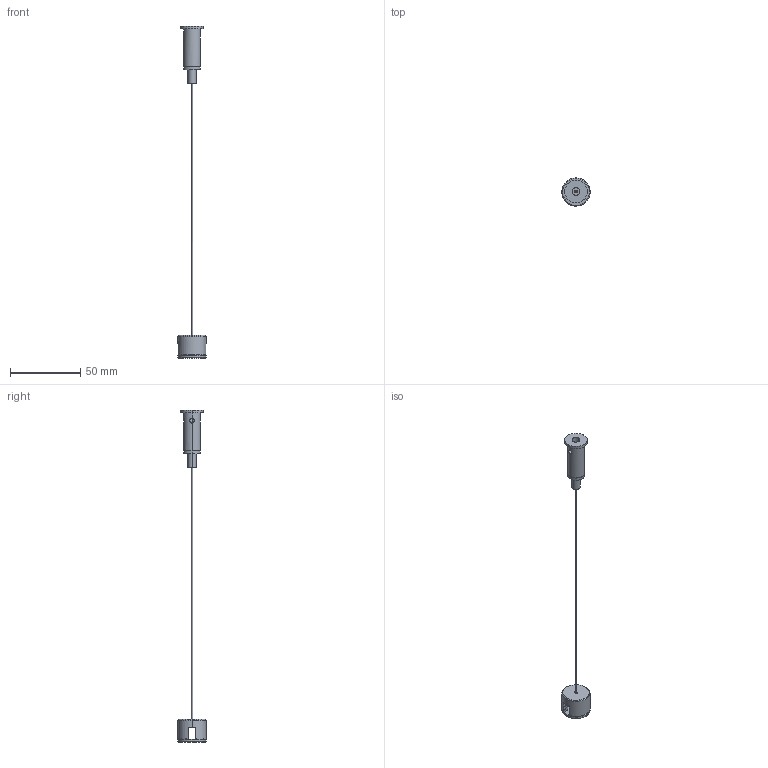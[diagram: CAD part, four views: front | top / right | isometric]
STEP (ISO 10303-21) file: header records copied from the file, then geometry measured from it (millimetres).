
FILE_DESCRIPTION(/* description */ (''),/* implementation_level */ '2;1');
FILE_NAME(/* name */ 'Funivia - Single cable support',/* time_stamp */ '2022-08-29T17:31:51+02:00',/* author */ (''),/* organization */ (''),/* preprocessor_version */ 'ST-DEVELOPER v16.5',/* originating_system */ 'Rhino 7.17',/* authorisation */ '');
FILE_SCHEMA (('AUTOMOTIVE_DESIGN'));
Length unit declared in the file: millimetre
Products named in the file (1): Document
Bounding box: 20 x 19.98 x 235.5 mm (x, y, z)
Volume: 6607.7 mm3; surface area: 5917.3 mm2
Topology: 4 solids, 4 shells, 92 faces, 216 edges, 140 vertices
Faces by surface type: cylinder 44, plane 36, bspline 12
Entity records: 2787 total; most frequent: CARTESIAN_POINT 1276, ORIENTED_EDGE 432, EDGE_CURVE 216, VERTEX_POINT 140, B_SPLINE_CURVE_WITH_KNOTS 112, EDGE_LOOP 106, ADVANCED_FACE 92, FACE_OUTER_BOUND 92
